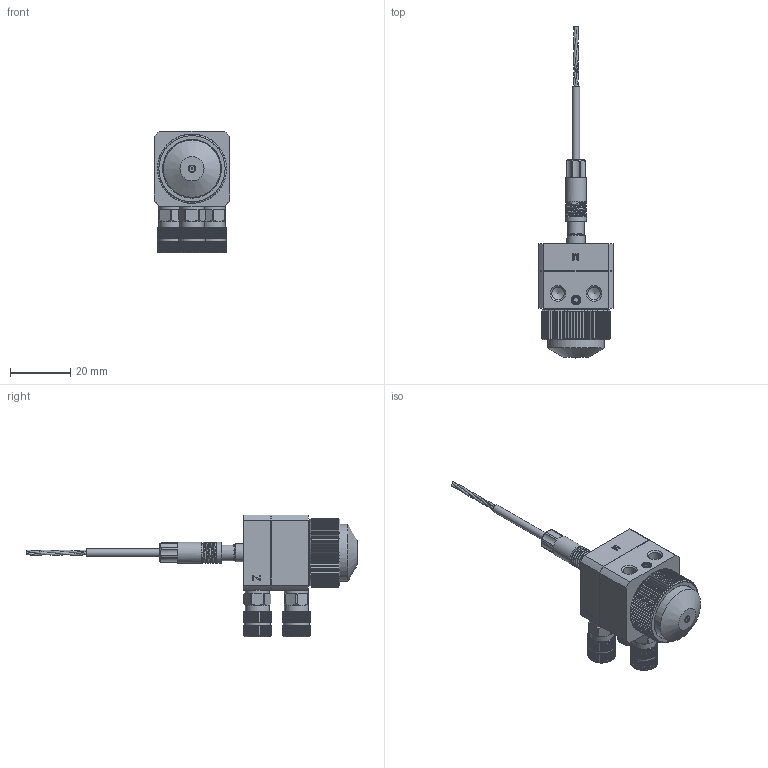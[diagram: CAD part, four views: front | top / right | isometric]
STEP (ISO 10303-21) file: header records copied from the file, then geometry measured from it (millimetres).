
FILE_DESCRIPTION (( 'STEP AP214' ), '1' );
FILE_NAME ('DAS-30CR-SENSOR.STEP', '2024-10-11T10:04:49', ( '' ), ( '' ), 'SwSTEP 2.0', 'SolidWorks 2024', '' );
FILE_SCHEMA (( 'AUTOMOTIVE_DESIGN' ));
Length unit declared in the file: millimetre
Products named in the file (1): DAS-30CR-SENSOR
Bounding box: 25 x 110.5 x 40.5 mm (x, y, z)
Volume: 21900.9 mm3; surface area: 8928.2 mm2
Topology: 1 solids, 1 shells, 1587 faces, 4274 edges, 2742 vertices
Faces by surface type: plane 956, cylinder 403, cone 213, bspline 15
Full cylindrical faces by diameter (mm): 0.5 x1, 2 x1, 2.5 x1, 3 x3, 4 x4, 4.198 x2, 4.2 x2, 5.4 x1, 5.5 x4, 5.7 x3, 6 x1, 6.2 x3, 7 x2, 7.998 x3, 8 x6, 8.7 x3, 19 x1, 19.2 x1, 21 x2, 21.2 x1
Entity records: 54165 total; most frequent: CARTESIAN_POINT 15808, ORIENTED_EDGE 8254, DIRECTION 7560, EDGE_CURVE 4127, VERTEX_POINT 2693, AXIS2_PLACEMENT_3D 2628, VECTOR 2304, LINE 2304
